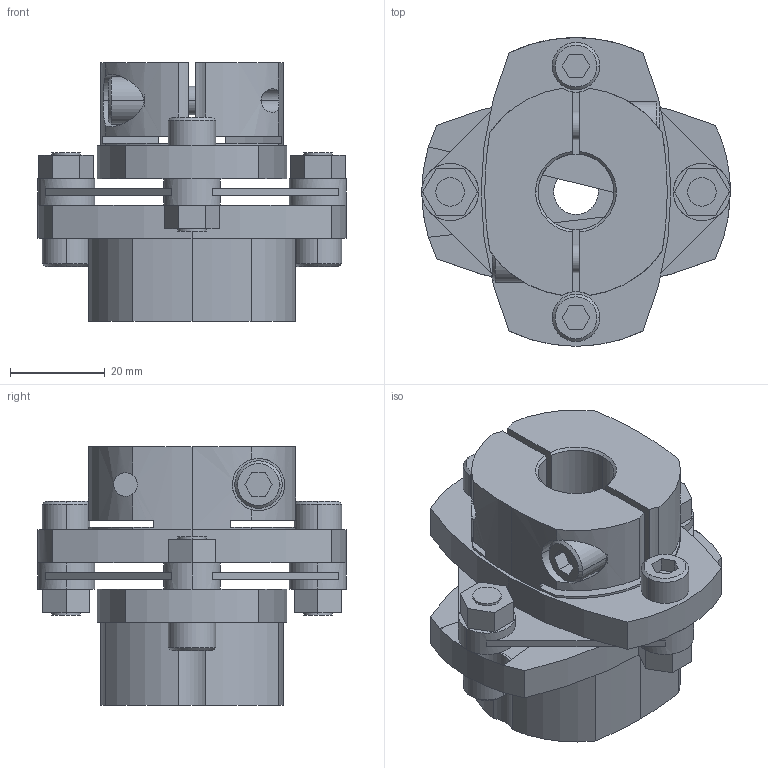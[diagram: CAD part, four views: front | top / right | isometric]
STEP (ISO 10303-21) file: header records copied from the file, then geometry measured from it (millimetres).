
FILE_DESCRIPTION((''),'2;1');
FILE_NAME('LCS-65M-11L亊16B.stp','2011-08-20T15:50:04',(''),(''),'AutoCAD STEP 2000i','AutoCAD 2000i',', , ');
FILE_SCHEMA(('CONFIG_CONTROL_DESIGN'));
Length unit declared in the file: millimetre
Products named in the file (7): LCS-65M-11L×16B; 忣兜1; LC65-B016; LC65M-L011; LC65-B014-1; LC65-B014; LCS65-ITA
Assembly tree (6 placements, depth 2):
  LCS-65M-11L×16B
    忣兜1
    LC65-B016
    LC65M-L011
    LC65-B014-1
    LC65-B014
    LCS65-ITA
Bounding box: 65 x 65 x 54.5 mm (x, y, z)
Volume: 78178.1 mm3; surface area: 26757.4 mm2
Topology: 1 solids, 1 shells, 228 faces, 602 edges, 394 vertices
Faces by surface type: plane 115, cylinder 92, cone 21
Entity records: 7573 total; most frequent: CARTESIAN_POINT 1539, DIRECTION 1288, ORIENTED_EDGE 1204, EDGE_CURVE 602, AXIS2_PLACEMENT_3D 473, VERTEX_POINT 394, VECTOR 342, LINE 342
